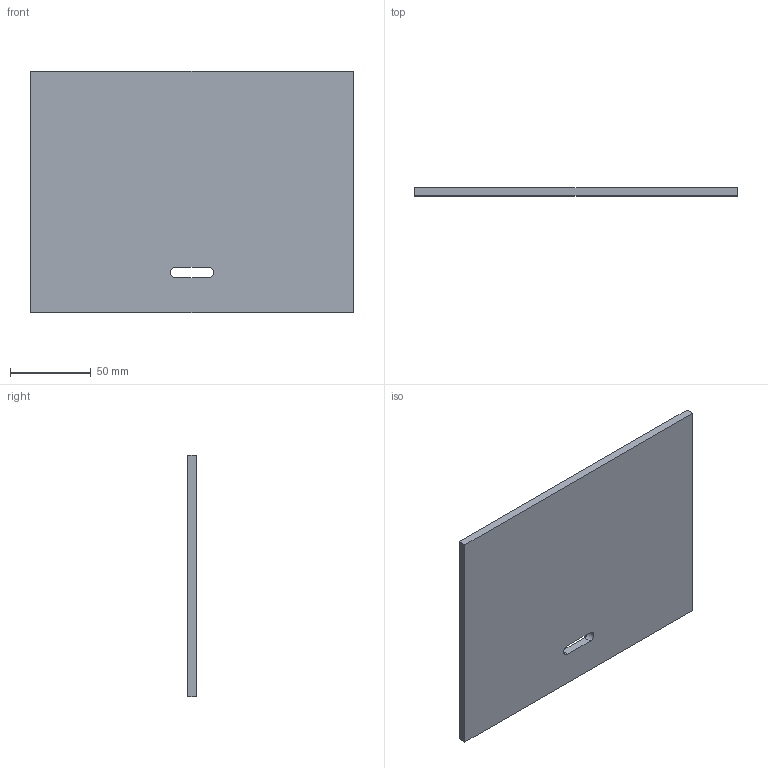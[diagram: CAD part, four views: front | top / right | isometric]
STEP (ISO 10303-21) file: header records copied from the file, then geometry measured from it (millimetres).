
FILE_DESCRIPTION(/* description */ ('Unknown'),/* implementation_level */ '2;1');
FILE_NAME(/* name */ '12_Light barrier part1',/* time_stamp */ '2020-08-28T13:23:05+02:00',/* author */ ('Unknown'),/* organization */ ('Unknown'),/* preprocessor_version */ 'ST-DEVELOPER v16.7',/* originating_system */ 'Solid Edge',/* authorisation */ 'Unknown');
FILE_SCHEMA (('AUTOMOTIVE_DESIGN {1 0 10303 214 3 1 1}'));
Length unit declared in the file: millimetre
Products named in the file (1): 12_Light barrier part1
Bounding box: 200 x 5 x 150 mm (x, y, z)
Volume: 149184.1 mm3; surface area: 63475.7 mm2
Topology: 1 solids, 1 shells, 10 faces, 24 edges, 16 vertices
Faces by surface type: plane 8, cylinder 2
Entity records: 326 total; most frequent: CARTESIAN_POINT 51, DIRECTION 50, ORIENTED_EDGE 48, EDGE_CURVE 24, LINE 20, VECTOR 20, VERTEX_POINT 16, AXIS2_PLACEMENT_3D 15
